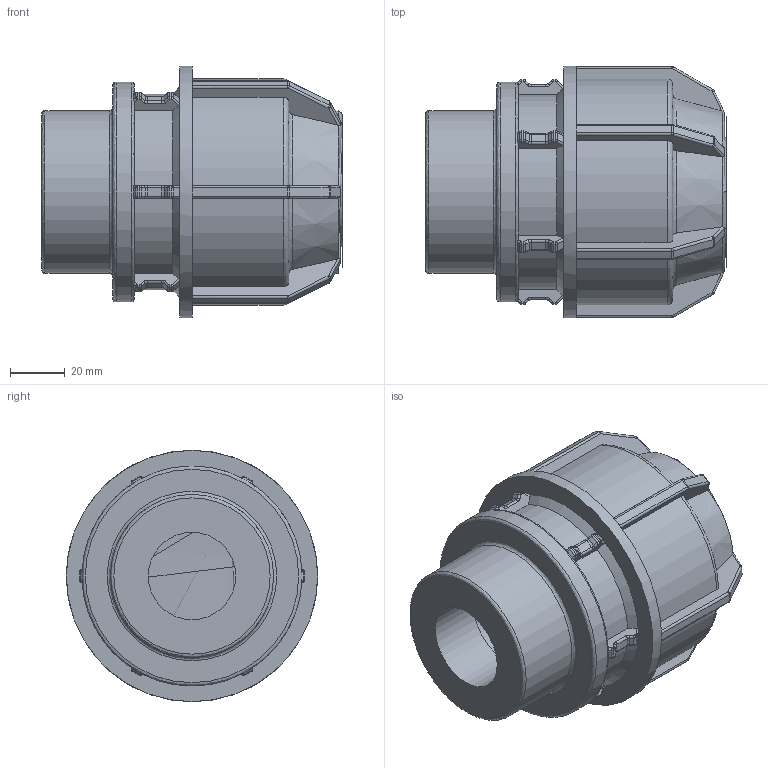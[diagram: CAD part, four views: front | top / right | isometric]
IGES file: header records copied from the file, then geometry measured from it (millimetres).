
Global section: file name: 140200040020.ipt; native system: Autodesk Inventor 2015; preprocessor: unknown; author: KIM; date: 20180409.130939; units: millimetre
Bounding box: 110 x 92 x 92 mm (x, y, z)
Volume: 343660.6 mm3; surface area: 54546.8 mm2
Topology: 1 solids, 1 shells, 471 faces, 1182 edges, 707 vertices
Faces by surface type: cylinder 171, plane 159, revolution 129, cone 12
Full cylindrical faces by diameter (mm): 59.614 x1, 80.479 x1, 92 x1
